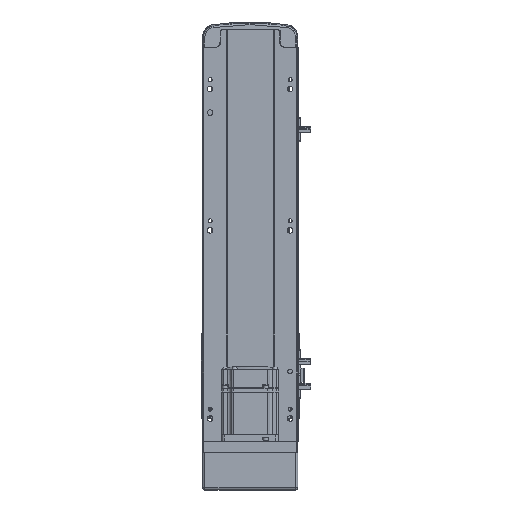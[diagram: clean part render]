
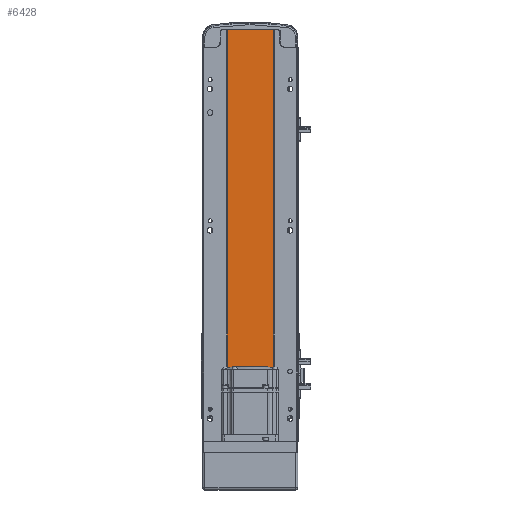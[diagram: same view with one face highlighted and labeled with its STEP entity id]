
A CAD part, front view. The second image highlights one B-rep face of the part: STEP entity #6428.
In plain terms, the highlighted planar face has unit normal (0, -1, 0).
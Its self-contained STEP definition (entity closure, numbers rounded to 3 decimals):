
#30 = AXIS2_PLACEMENT_3D ( 'NONE', #20930, #51176, #47802 ) ;
#1514 = EDGE_CURVE ( 'NONE', #15896, #53436, #53697, .T. ) ;
#2414 = ORIENTED_EDGE ( 'NONE', *, *, #47340, .T. ) ;
#6428 = ADVANCED_FACE ( 'NONE', ( #17932 ), #29818, .F. ) ;
#8289 = CARTESIAN_POINT ( 'NONE',  ( -24.5, 2., 437. ) ) ;
#9086 = EDGE_CURVE ( 'NONE', #11743, #47311, #27577, .T. ) ;
#11743 = VERTEX_POINT ( 'NONE', #41623 ) ;
#13237 = DIRECTION ( 'NONE',  ( 0., 0., -1. ) ) ;
#15896 = VERTEX_POINT ( 'NONE', #28556 ) ;
#17932 = FACE_OUTER_BOUND ( 'NONE', #34295, .T. ) ;
#18071 = ORIENTED_EDGE ( 'NONE', *, *, #33591, .F. ) ;
#20930 = CARTESIAN_POINT ( 'NONE',  ( 0., 2., 437. ) ) ;
#21055 = LINE ( 'NONE', #35818, #35226 ) ;
#27577 = LINE ( 'NONE', #8289, #36786 ) ;
#28556 = CARTESIAN_POINT ( 'NONE',  ( -24.5, 2., 0. ) ) ;
#29818 = PLANE ( 'NONE',  #30 ) ;
#32909 = DIRECTION ( 'NONE',  ( 1., 0., 0. ) ) ;
#33591 = EDGE_CURVE ( 'NONE', #47311, #53436, #58816, .T. ) ;
#34295 = EDGE_LOOP ( 'NONE', ( #54479, #18071, #36453, #2414 ) ) ;
#35226 = VECTOR ( 'NONE', #40161, 1000. ) ;
#35818 = CARTESIAN_POINT ( 'NONE',  ( -24.5, 2., 437. ) ) ;
#36136 = CARTESIAN_POINT ( 'NONE',  ( 24.5, 2., 0. ) ) ;
#36453 = ORIENTED_EDGE ( 'NONE', *, *, #9086, .F. ) ;
#36786 = VECTOR ( 'NONE', #57119, 1000. ) ;
#40161 = DIRECTION ( 'NONE',  ( 0., 0., -1. ) ) ;
#40346 = CARTESIAN_POINT ( 'NONE',  ( 24.5, 2., 437. ) ) ;
#41623 = CARTESIAN_POINT ( 'NONE',  ( -24.5, 2., 437. ) ) ;
#45338 = VECTOR ( 'NONE', #13237, 1000. ) ;
#47311 = VERTEX_POINT ( 'NONE', #49981 ) ;
#47340 = EDGE_CURVE ( 'NONE', #11743, #15896, #21055, .T. ) ;
#47802 = DIRECTION ( 'NONE',  ( 0., 0., 1. ) ) ;
#49981 = CARTESIAN_POINT ( 'NONE',  ( 24.5, 2., 437. ) ) ;
#51176 = DIRECTION ( 'NONE',  ( 0., 1., 0. ) ) ;
#52246 = VECTOR ( 'NONE', #32909, 1000. ) ;
#53436 = VERTEX_POINT ( 'NONE', #36136 ) ;
#53697 = LINE ( 'NONE', #55824, #52246 ) ;
#54479 = ORIENTED_EDGE ( 'NONE', *, *, #1514, .T. ) ;
#55824 = CARTESIAN_POINT ( 'NONE',  ( 0., 2., 0. ) ) ;
#57119 = DIRECTION ( 'NONE',  ( 1., 0., 0. ) ) ;
#58816 = LINE ( 'NONE', #40346, #45338 ) ;
